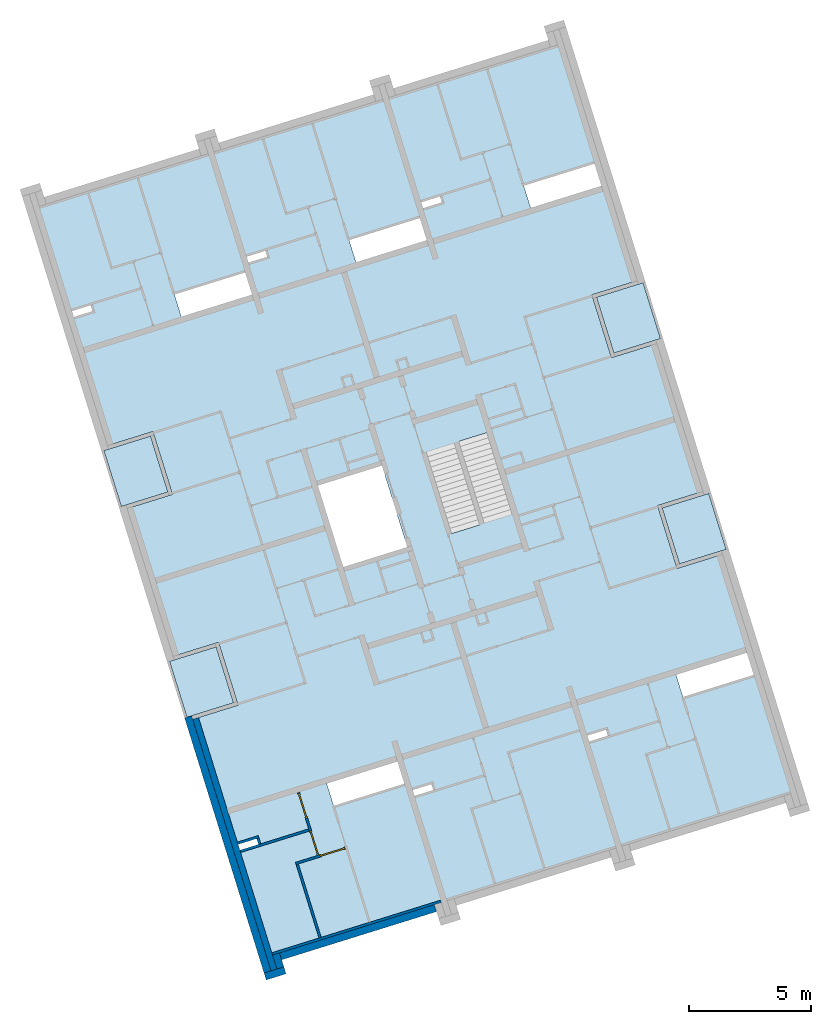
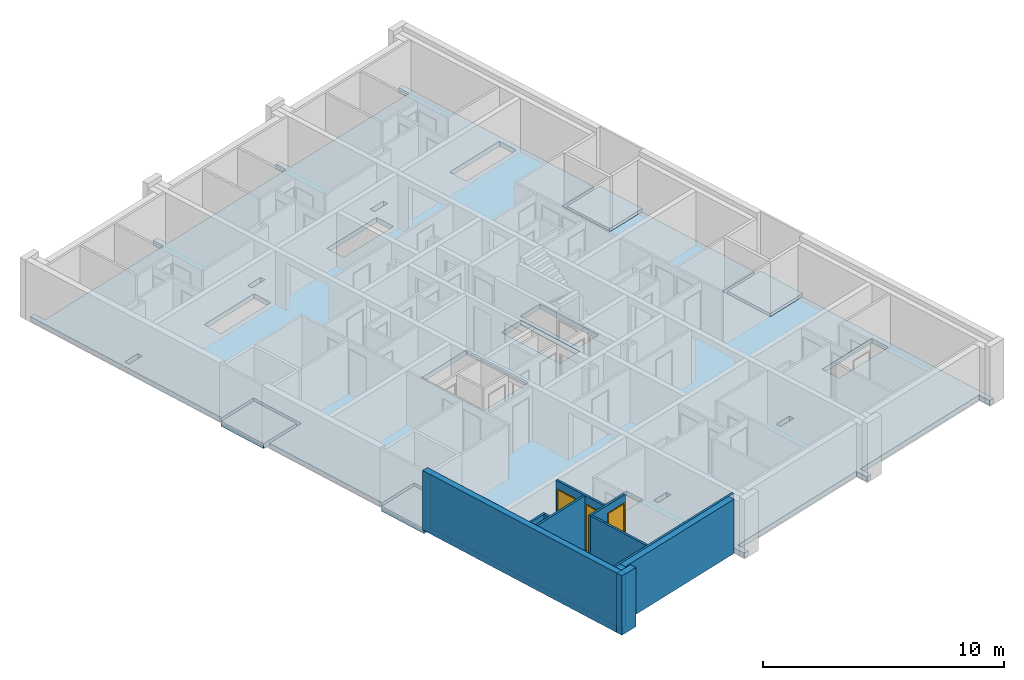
# One storey, part 1 of 12: 12 walls, 5 slabs, 3 doors, 18 openings.
"""IFC4 building model written with IfcOpenShell, lengths in metres."""

from ifc_helpers import new_model, entity, si_unit, converted_unit, direction, frame, origin, place, context, subcontext, project, spatial, indexed_curve, outline, extrude, polygons, source, transform, mapped, material, constituent, constituent_set, type_object, type_shapes, element, fill, save


model = new_model("IFC4")

# Units and contexts
model_context = context("Model", 3, precision=1e-05, world=origin(), true_north=direction((6.12323399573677e-17, 1.0)))
body_context = subcontext(model_context, "Body", "Model", "MODEL_VIEW")
ifc_project = project(units=[si_unit("LENGTHUNIT", "METRE"), si_unit("AREAUNIT", "SQUARE_METRE"), si_unit("VOLUMEUNIT", "CUBIC_METRE"), converted_unit("PLANEANGLEUNIT", "DEGREE", entity("IfcPlaneAngleMeasure", 0.0174532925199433), si_unit("PLANEANGLEUNIT", "RADIAN"), dimensions=[0, 0, 0, 0, 0, 0, 0])], contexts=[model_context])

# Site, building, storey
site_placement = place(None, frame((13.1347999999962, 11.9886000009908, 0.0), z_axis=(0.0, 0.0, 1.0), x_axis=(0.954770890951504, 0.297342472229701, 0.0)))
site = spatial("IfcSite", under=ifc_project, at=site_placement, Name="Schiehaven", CompositionType="ELEMENT")
building_placement = place(site_placement, origin())
building = spatial("IfcBuilding", under=site, at=building_placement, Name="VORM huis", CompositionType="ELEMENT")
storey_placement = place(building_placement, frame((0.0, 0.0, 3.9)))
storey = spatial("IfcBuildingStorey", under=building, at=storey_placement, Name="01 eerste verdieping", CompositionType="ELEMENT", Elevation=3.9)

# Slab, openings
ifc_material_1 = material(Name="beton_gewapend_ihw", Category="Miscellaneous")
slab_type_1 = type_object("IfcSlabType", Name="Floor:28_FL_skelet_vloer 250mm", PredefinedType="FLOOR", material=ifc_material_1)
slab_1_placement = place(storey_placement, origin())
slab_1 = element("IfcSlab", 1, at=slab_1_placement, inside=storey, type_object=slab_type_1, material=ifc_material_1, Name="Constructieve vloer", ObjectType="Vloer", PredefinedType="FLOOR", context=body_context, shape_type="SweptSolid", body=[
    extrude(outline(indexed_curve([(-11.3750000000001, -5.87499999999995), (-11.3750000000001, -16.675), (-11.125, -16.675), (-11.125, -16.075), (-3.87500000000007, -16.075), (-3.87500000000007, -16.675), (-3.62499999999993, -16.675), (-3.62499999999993, -16.075), (3.62500000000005, -16.075), (3.62500000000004, -16.675), (3.8750000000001, -16.675), (3.8750000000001, -16.075), (11.1250000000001, -16.075), (11.1250000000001, -16.6750000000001), (11.375, -16.6750000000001), (11.375, -5.87499999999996), (9.425, -5.87499999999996), (9.425, -3.17499999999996), (11.375, -3.17499999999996), (11.375, 3.17499999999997), (9.42499999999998, 3.17499999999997), (9.42499999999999, 5.87499999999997), (11.375, 5.87499999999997), (11.375, 16.675), (11.1250000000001, 16.675), (11.1250000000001, 16.075), (3.8750000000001, 16.075), (3.8750000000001, 16.675), (3.62500000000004, 16.675), (3.62500000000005, 16.075), (-3.62499999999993, 16.075), (-3.62499999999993, 16.675), (-3.87500000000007, 16.675), (-3.87500000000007, 16.075), (-11.125, 16.075), (-11.125, 16.6749999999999), (-11.3750000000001, 16.6749999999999), (-11.3750000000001, 5.87499999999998), (-9.42500000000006, 5.87499999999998), (-9.42500000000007, 3.17499999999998), (-11.3750000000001, 3.17499999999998), (-11.3750000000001, -3.17499999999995), (-9.42500000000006, -3.17499999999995), (-9.42500000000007, -5.87499999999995), (-11.3750000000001, -5.87499999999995)], self_intersect=False), holes=[indexed_curve([(-3.62500000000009, -1.74999999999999), (-3.62500000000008, 1.75000000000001), (-0.875000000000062, 1.75), (-0.875000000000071, -1.75), (-3.62500000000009, -1.74999999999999)], self_intersect=False), indexed_curve([(2.22499999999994, 1.76), (2.22499999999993, -1.54), (1.02499999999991, -1.53999999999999), (1.02499999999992, 1.76), (2.22499999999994, 1.76)], self_intersect=False), indexed_curve([(3.62499999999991, -1.75999999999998), (2.42499999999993, -1.75999999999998), (2.42499999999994, 1.54), (3.62499999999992, 1.54), (3.62499999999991, -1.75999999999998)], self_intersect=False), indexed_curve([(-2.82500000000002, 11.3249999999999), (-3.625, 11.3249999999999), (-3.62500000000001, 11.5749999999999), (-2.82500000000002, 11.575), (-2.82500000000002, 11.3249999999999)], self_intersect=False), indexed_curve([(-10.325, 11.325), (-11.125, 11.325), (-11.125, 11.575), (-10.325, 11.575), (-10.325, 11.325)], self_intersect=False), indexed_curve([(4.67499999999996, 11.3249999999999), (3.87499999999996, 11.3249999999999), (3.87499999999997, 11.5749999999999), (4.67499999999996, 11.5749999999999), (4.67499999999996, 11.3249999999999)], self_intersect=False), indexed_curve([(-3.87499999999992, 10.9749999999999), (-3.87499999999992, 10.0249999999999), (-6.91299986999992, 10.0249999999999), (-6.91299986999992, 10.9749999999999), (-3.87499999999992, 10.9749999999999)], self_intersect=False), indexed_curve([(11.1250000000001, 10.9749999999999), (11.1250000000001, 10.0249999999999), (8.08700013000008, 10.0249999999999), (8.08700013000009, 10.9749999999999), (11.1250000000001, 10.9749999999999)], self_intersect=False), indexed_curve([(-2.82499999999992, -11.3249999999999), (-2.82499999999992, -11.5749999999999), (-3.62499999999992, -11.5749999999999), (-3.62499999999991, -11.3249999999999), (-2.82499999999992, -11.3249999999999)], self_intersect=False), indexed_curve([(3.62500000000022, -10.975), (0.587000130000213, -10.9749999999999), (0.587000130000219, -10.0249999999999), (3.62500000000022, -10.025), (3.62500000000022, -10.975)], self_intersect=False), indexed_curve([(-10.325, -11.3249999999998), (-10.325, -11.5749999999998), (-11.1249999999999, -11.5749999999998), (-11.1249999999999, -11.3249999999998), (-10.325, -11.3249999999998)], self_intersect=False), indexed_curve([(4.67500000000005, -11.325), (4.67500000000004, -11.575), (3.87500000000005, -11.575), (3.87500000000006, -11.325), (4.67500000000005, -11.325)], self_intersect=False), indexed_curve([(-3.87499999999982, -10.9749999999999), (-6.91299986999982, -10.9749999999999), (-6.91299986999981, -10.0249999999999), (-3.87499999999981, -10.0249999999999), (-3.87499999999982, -10.9749999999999)], self_intersect=False), indexed_curve([(11.1250000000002, -10.975), (8.08700013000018, -10.975), (8.08700013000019, -10.025), (11.1250000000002, -10.0250000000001), (11.1250000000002, -10.975)], self_intersect=False)]), frame((16.2500000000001, 17.05, -0.249999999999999), z_axis=(0.0, 0.0, -1.0), x_axis=(1.0, 0.0, 0.0)), (0.0, 0.0, -1.0), 0.25),
])
opening_1_placement = place(slab_1_placement, origin())
element("IfcOpeningElement", 2, at=opening_1_placement, cuts=slab_1, Name="Constructieve vloer", PredefinedType="OPENING", context=body_context, shape_type="SweptSolid", body=[
    extrude(outline(indexed_curve([(-1.74999999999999, -1.37500000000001), (1.75, -1.37500000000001), (1.75, 1.37500000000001), (-1.75, 1.37500000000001), (-1.74999999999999, -1.37500000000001)], self_intersect=False)), frame((14.0, 17.05, -0.25), z_axis=(0.0, 0.0, 1.0), x_axis=(0.0, -1.0, 0.0)), (0.0, 0.0, 1.0), 0.25),
])
opening_2_placement = place(slab_1_placement, origin())
element("IfcOpeningElement", 3, at=opening_2_placement, cuts=slab_1, Name="Constructieve vloer", PredefinedType="OPENING", context=body_context, shape_type="SweptSolid", body=[
    extrude(outline(indexed_curve([(-1.65, -0.600000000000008), (1.65, -0.600000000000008), (1.65, 0.600000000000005), (-1.65, 0.600000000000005), (-1.65, -0.600000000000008)], self_intersect=False)), frame((17.8750000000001, 16.94, -0.25), z_axis=(0.0, 0.0, 1.0), x_axis=(0.0, 1.0, 0.0)), (0.0, 0.0, 1.0), 0.25),
])
opening_3_placement = place(slab_1_placement, origin())
element("IfcOpeningElement", 4, at=opening_3_placement, cuts=slab_1, Name="Constructieve vloer", PredefinedType="OPENING", context=body_context, shape_type="SweptSolid", body=[
    extrude(outline(indexed_curve([(-0.399999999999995, -0.125000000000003), (0.399999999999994, -0.125000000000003), (0.399999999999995, 0.125000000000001), (-0.399999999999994, 0.125000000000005), (-0.399999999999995, -0.125000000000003)], self_intersect=False)), frame((13.0250000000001, 5.60000000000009, -0.25), z_axis=(0.0, 0.0, 1.0), x_axis=(-1.0, 0.0, 0.0)), (0.0, 0.0, 1.0), 0.25),
])
opening_4_placement = place(slab_1_placement, origin())
element("IfcOpeningElement", 5, at=opening_4_placement, cuts=slab_1, Name="Constructieve vloer", PredefinedType="OPENING", context=body_context, shape_type="SweptSolid", body=[
    extrude(outline(indexed_curve([(-0.399999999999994, -0.125000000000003), (0.399999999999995, -0.125000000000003), (0.399999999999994, 0.125000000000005), (-0.399999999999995, 0.125000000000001), (-0.399999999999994, -0.125000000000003)], self_intersect=False)), frame((5.52500000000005, 5.60000000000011, -0.25), z_axis=(0.0, 0.0, 1.0), x_axis=(-1.0, 0.0, 0.0)), (0.0, 0.0, 1.0), 0.25),
])
opening_5_placement = place(slab_1_placement, origin())
element("IfcOpeningElement", 6, at=opening_5_placement, cuts=slab_1, Name="Constructieve vloer", PredefinedType="OPENING", context=body_context, shape_type="SweptSolid", body=[
    extrude(outline(indexed_curve([(-0.399999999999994, -0.125000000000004), (0.399999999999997, -0.125000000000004), (0.399999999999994, 0.125000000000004), (-0.399999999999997, 0.125000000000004), (-0.399999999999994, -0.125000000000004)], self_intersect=False)), frame((20.5250000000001, 5.60000000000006, -0.25), z_axis=(0.0, 0.0, 1.0), x_axis=(-1.0, 0.0, 0.0)), (0.0, 0.0, 1.0), 0.25),
])
opening_6_placement = place(slab_1_placement, origin())
element("IfcOpeningElement", 7, at=opening_6_placement, cuts=slab_1, Name="Constructieve vloer", PredefinedType="OPENING", context=body_context, shape_type="SweptSolid", body=[
    extrude(outline(indexed_curve([(-0.475, -1.518999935), (0.475, -1.518999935), (0.475, 1.518999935), (-0.475, 1.518999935), (-0.475, -1.518999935)], self_intersect=False)), frame((10.8560000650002, 6.5500000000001, -0.25), z_axis=(0.0, 0.0, 1.0), x_axis=(0.0, 1.0, 0.0)), (0.0, 0.0, 1.0), 0.25),
])
opening_7_placement = place(slab_1_placement, origin())
element("IfcOpeningElement", 8, at=opening_7_placement, cuts=slab_1, Name="Constructieve vloer", PredefinedType="OPENING", context=body_context, shape_type="SweptSolid", body=[
    extrude(outline(indexed_curve([(-0.474999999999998, -1.518999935), (0.474999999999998, -1.518999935), (0.474999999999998, 1.518999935), (-0.474999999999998, 1.518999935), (-0.474999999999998, -1.518999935)], self_intersect=False)), frame((25.8560000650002, 6.55000000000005, -0.25), z_axis=(0.0, 0.0, 1.0), x_axis=(0.0, 1.0, 0.0)), (0.0, 0.0, 1.0), 0.25),
])
opening_8_placement = place(slab_1_placement, origin())
element("IfcOpeningElement", 9, at=opening_8_placement, cuts=slab_1, Name="Constructieve vloer", PredefinedType="OPENING", context=body_context, shape_type="SweptSolid", body=[
    extrude(outline(indexed_curve([(-0.125000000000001, -0.399999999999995), (0.125000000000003, -0.399999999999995), (0.125000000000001, 0.399999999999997), (-0.125000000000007, 0.399999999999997), (-0.125000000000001, -0.399999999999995)], self_intersect=False)), frame((13.0250000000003, 28.4999999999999, -0.25), z_axis=(0.0, 0.0, 1.0), x_axis=(0.0, 1.0, 0.0)), (0.0, 0.0, 1.0), 0.25),
])
opening_9_placement = place(slab_1_placement, origin())
element("IfcOpeningElement", 10, at=opening_9_placement, cuts=slab_1, Name="Constructieve vloer", PredefinedType="OPENING", context=body_context, shape_type="SweptSolid", body=[
    extrude(outline(indexed_curve([(-1.518999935, -0.475), (1.518999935, -0.475), (1.518999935, 0.475), (-1.518999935, 0.475), (-1.518999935, -0.475)], self_intersect=False)), frame((18.3560000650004, 27.55, -0.25), z_axis=(0.0, 0.0, 1.0), x_axis=(-1.0, 0.0, 0.0)), (0.0, 0.0, 1.0), 0.25),
])
opening_10_placement = place(slab_1_placement, origin())
element("IfcOpeningElement", 11, at=opening_10_placement, cuts=slab_1, Name="Constructieve vloer", PredefinedType="OPENING", context=body_context, shape_type="SweptSolid", body=[
    extrude(outline(indexed_curve([(-0.125000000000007, -0.399999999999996), (0.125000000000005, -0.399999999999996), (0.125000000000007, 0.399999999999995), (-0.125000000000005, 0.399999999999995), (-0.125000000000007, -0.399999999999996)], self_intersect=False)), frame((5.52500000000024, 28.4999999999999, -0.25), z_axis=(0.0, 0.0, 1.0), x_axis=(0.0, 1.0, 0.0)), (0.0, 0.0, 1.0), 0.25),
])
opening_11_placement = place(slab_1_placement, origin())
element("IfcOpeningElement", 12, at=opening_11_placement, cuts=slab_1, Name="Constructieve vloer", PredefinedType="OPENING", context=body_context, shape_type="SweptSolid", body=[
    extrude(outline(indexed_curve([(-0.125000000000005, -0.399999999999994), (0.124999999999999, -0.399999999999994), (0.125000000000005, 0.399999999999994), (-0.125000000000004, 0.399999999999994), (-0.125000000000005, -0.399999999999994)], self_intersect=False)), frame((20.5250000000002, 28.5, -0.25), z_axis=(0.0, 0.0, 1.0), x_axis=(0.0, 1.0, 0.0)), (0.0, 0.0, 1.0), 0.25),
])
opening_12_placement = place(slab_1_placement, origin())
element("IfcOpeningElement", 13, at=opening_12_placement, cuts=slab_1, Name="Constructieve vloer", PredefinedType="OPENING", context=body_context, shape_type="SweptSolid", body=[
    extrude(outline(indexed_curve([(-1.518999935, -0.474999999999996), (1.518999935, -0.474999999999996), (1.518999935, 0.475), (-1.518999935, 0.474999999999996), (-1.518999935, -0.474999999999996)], self_intersect=False)), frame((10.8560000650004, 27.5499999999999, -0.25), z_axis=(0.0, 0.0, 1.0), x_axis=(-1.0, 0.0, 0.0)), (0.0, 0.0, 1.0), 0.25),
])
opening_13_placement = place(slab_1_placement, origin())
element("IfcOpeningElement", 14, at=opening_13_placement, cuts=slab_1, Name="Constructieve vloer", PredefinedType="OPENING", context=body_context, shape_type="SweptSolid", body=[
    extrude(outline(indexed_curve([(-1.51899993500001, -0.474999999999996), (1.518999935, -0.475), (1.518999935, 0.475), (-1.518999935, 0.475), (-1.51899993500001, -0.474999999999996)], self_intersect=False)), frame((25.8560000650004, 27.55, -0.25), z_axis=(0.0, 0.0, 1.0), x_axis=(-1.0, 0.0, 0.0)), (0.0, 0.0, 1.0), 0.25),
])

# Slabs
slab_type_2 = type_object("IfcSlabType", Name="Floor:28_FL_skelet_dakterrasvloer 250mm", PredefinedType="ROOF", material=ifc_material_1)
slab_2_placement = place(storey_placement, origin())
element("IfcSlab", 15, at=slab_2_placement, inside=storey, type_object=slab_type_2, material=ifc_material_1, Name="Begaanbare dakvloer", ObjectType="Vloer", PredefinedType="ROOF", context=body_context, shape_type="SweptSolid", body=[
    extrude(outline(indexed_curve([(-1.2, -1.0), (1.2, -1.0), (1.2, 1.0), (-1.2, 1.0), (-1.2, -1.0)], self_intersect=False)), frame((5.67500000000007, 12.5250000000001, 0.0), z_axis=(0.0, 0.0, -1.0), x_axis=(0.0, 1.0, 0.0)), (0.0, 0.0, 1.0), 0.25),
])
slab_3_placement = place(storey_placement, origin())
element("IfcSlab", 16, at=slab_3_placement, inside=storey, type_object=slab_type_2, material=ifc_material_1, Name="Begaanbare dakvloer", ObjectType="Vloer", PredefinedType="ROOF", context=body_context, shape_type="SweptSolid", body=[
    extrude(outline(indexed_curve([(-1.2, -1.0), (1.2, -1.0), (1.2, 1.0), (-1.2, 1.0), (-1.2, -1.0)], self_intersect=False)), frame((5.67500000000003, 21.5749999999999, 0.0), z_axis=(0.0, 0.0, -1.0), x_axis=(0.0, 1.0, 0.0)), (0.0, 0.0, 1.0), 0.25),
])
slab_4_placement = place(storey_placement, origin())
element("IfcSlab", 17, at=slab_4_placement, inside=storey, type_object=slab_type_2, material=ifc_material_1, Name="Begaanbare dakvloer", ObjectType="Vloer", PredefinedType="ROOF", context=body_context, shape_type="SweptSolid", body=[
    extrude(outline(indexed_curve([(-1.2, -1.0), (1.19999999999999, -1.0), (1.2, 1.0), (-1.2, 1.0), (-1.2, -1.0)], self_intersect=False)), frame((26.8250000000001, 21.5749999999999, 0.0), z_axis=(0.0, 0.0, -1.0), x_axis=(0.0, 1.0, 0.0)), (0.0, 0.0, 1.0), 0.25),
])
slab_5_placement = place(storey_placement, origin())
element("IfcSlab", 18, at=slab_5_placement, inside=storey, type_object=slab_type_2, material=ifc_material_1, Name="Begaanbare dakvloer", ObjectType="Vloer", PredefinedType="ROOF", context=body_context, shape_type="SweptSolid", body=[
    extrude(outline(indexed_curve([(-1.2, -1.0), (1.2, -1.0), (1.2, 1.0), (-1.2, 1.00000000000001), (-1.2, -1.0)], self_intersect=False)), frame((26.8250000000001, 12.525, 0.0), z_axis=(0.0, 0.0, -1.0), x_axis=(0.0, 1.0, 0.0)), (0.0, 0.0, 1.0), 0.25),
])

# Walls
wall_type_1 = type_object("IfcWallType", Name="Basic Wall:28_WA_skelet_wand 250mm_gen", PredefinedType="STANDARD")
wall_1_placement = place(storey_placement, frame((5.0, 0.374999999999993, 0.0), z_axis=(0.0, 0.0, 1.0), x_axis=(0.0, 1.0, 0.0)))
element("IfcWall", 19, at=wall_1_placement, inside=storey, type_object=wall_type_1, material=ifc_material_1, Name="Constructieve wand", ObjectType="Wand", PredefinedType="NOTDEFINED", context=body_context, shape_type="SweptSolid", body=[
    extrude(outline(indexed_curve([(10.8000000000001, 0.124999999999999), (4.18608357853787e-16, 0.124999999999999), (-4.18608357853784e-16, -0.125), (10.8000000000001, -0.125), (10.8000000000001, 0.124999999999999)], self_intersect=False)), origin(), (0.0, 0.0, 1.0), 2.75),
])
ifc_material_2 = material(Name="ntb_ntb_ntb", Category="Miscellaneous")
wall_type_2 = type_object("IfcWallType", Name="Basic Wall:21_WA_gevel_binnenspouwwand 100mm_gen", PredefinedType="STANDARD")
wall_2_placement = place(storey_placement, frame((5.12500000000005, 1.02500000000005, 0.0)))
element("IfcWall", 20, at=wall_2_placement, inside=storey, type_object=wall_type_2, material=ifc_material_2, Name="Binnenspouwblad", ObjectType="Wand", PredefinedType="NOTDEFINED", context=body_context, shape_type="SweptSolid", body=[
    extrude(outline(indexed_curve([(7.24999999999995, 0.05), (-1.84844170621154e-16, 0.05), (1.84844170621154e-16, -0.05), (7.24999999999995, -0.05), (7.24999999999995, 0.05)], self_intersect=False)), origin(), (0.0, 0.0, 1.0), 2.75),
])
wall_type_3 = type_object("IfcWallType", Name="Basic Wall: 300mm_gen", PredefinedType="STANDARD")
wall_3_placement = place(storey_placement, frame((4.72500000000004, 0.37500000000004, 0.0), z_axis=(0.0, 0.0, 1.0), x_axis=(0.0, 1.0, 0.0)))
element("IfcWall", 21, at=wall_3_placement, inside=storey, type_object=wall_type_3, material=ifc_material_2, Name="Gevelwand", ObjectType="Wand", PredefinedType="NOTDEFINED", context=body_context, shape_type="SweptSolid", body=[
    extrude(outline(indexed_curve([(10.95, 0.15), (2.26816763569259e-16, 0.15), (-2.26816763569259e-16, -0.15), (10.95, -0.15), (10.95, 0.15)], self_intersect=False)), origin(), (0.0, 0.0, 1.0), 3.0),
])
wall_4_placement = place(storey_placement, frame((5.42500000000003, 0.22500000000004, 0.0), z_axis=(0.0, 0.0, 1.0), x_axis=(-1.0, 0.0, 0.0)))
element("IfcWall", 22, at=wall_4_placement, inside=storey, type_object=wall_type_3, material=ifc_material_2, Name="Gevelwand", ObjectType="Wand", PredefinedType="NOTDEFINED", context=body_context, shape_type="SweptSolid", body=[
    extrude(outline(indexed_curve([(0.84999999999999, 0.15), (-3.08086889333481e-16, 0.15), (3.08086889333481e-16, -0.15), (0.84999999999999, -0.15), (0.84999999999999, 0.15)], self_intersect=False)), origin(), (0.0, 0.0, 1.0), 3.0),
])
wall_5_placement = place(storey_placement, frame((5.27500000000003, 0.975000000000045, 0.0), z_axis=(0.0, 0.0, 1.0), x_axis=(0.0, -1.0, 0.0)))
element("IfcWall", 23, at=wall_5_placement, inside=storey, type_object=wall_type_3, material=ifc_material_2, Name="Gevelwand", ObjectType="Wand", PredefinedType="NOTDEFINED", context=body_context, shape_type="SweptSolid", body=[
    extrude(outline(indexed_curve([(0.600000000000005, 0.149999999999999), (0.0, 0.149999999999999), (0.0, -0.149999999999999), (0.600000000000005, -0.149999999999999), (0.600000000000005, 0.149999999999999)], self_intersect=False)), origin(), (0.0, 0.0, 1.0), 2.75),
])
wall_6_placement = place(storey_placement, frame((12.075, 0.825000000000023, 0.0), z_axis=(0.0, 0.0, 1.0), x_axis=(-1.0, 0.0, 0.0)))
element("IfcWall", 24, at=wall_6_placement, inside=storey, type_object=wall_type_3, material=ifc_material_2, Name="Gevelwand", ObjectType="Wand", PredefinedType="NOTDEFINED", context=body_context, shape_type="SweptSolid", body=[
    extrude(outline(indexed_curve([(6.64999999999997, 0.15), (-4.76111769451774e-16, 0.15), (4.76111769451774e-16, -0.15), (6.64999999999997, -0.15), (6.64999999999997, 0.15)], self_intersect=False)), origin(), (0.0, 0.0, 1.0), 2.75),
])

# Wall, openings, door
wall_type_4 = type_object("IfcWallType", Name="Basic Wall:22_WA_afbouw_binnenwand 100mm_gen", PredefinedType="STANDARD")
wall_7_placement = place(storey_placement, frame((9.27499999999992, 4.2750000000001, 0.0), z_axis=(0.0, 0.0, 1.0), x_axis=(-1.0, 0.0, 0.0)))
wall_7 = element("IfcWall", 25, at=wall_7_placement, inside=storey, type_object=wall_type_4, material=ifc_material_2, Name="Binnenwand", ObjectType="Wand", PredefinedType="NOTDEFINED", context=body_context, shape_type="Tessellation", body=[
    polygons([(2.12499999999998, -0.05, 2.75), (1.19999999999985, -0.05, 2.75), (1.09999999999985, -0.05, 2.75), (0.0, -0.05, 2.75), (0.0, -0.05, 2.34999999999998), (0.0, -0.05, 0.0), (0.0250000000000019, -0.05, 0.0), (0.025000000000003, -0.05, 2.34999999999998), (1.075, -0.05, 2.34999999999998), (1.075, -0.05, 0.0), (2.12499999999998, -0.05, 0.0), (0.0, 0.05, 2.75), (2.02499999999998, 0.05, 2.75), (2.12499999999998, 0.05, 2.75), (2.12499999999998, 0.05, 0.0), (2.02499999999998, 0.05, 5.41433564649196e-16), (1.075, 0.05, 0.0), (1.075, 0.05, 2.34999999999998), (0.0250000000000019, 0.05, 2.34999999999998), (0.0250000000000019, 0.05, 0.0), (0.0, 0.05, 0.0)], [[[1, 2, 3, 4, 5, 6, 7, 8, 9, 10, 11]], [[12, 13, 14, 15, 16, 17, 18, 19, 20, 21]], [[6, 21, 20, 7]], [[4, 3, 2, 1, 14, 13, 12]], [[6, 5, 4, 12, 21]], [[19, 8, 7, 20]], [[9, 18, 17, 10]], [[8, 19, 18, 9]], [[1, 11, 15, 14]], [[15, 11, 10, 17, 16]]], closed=True),
])
opening_14_placement = place(wall_7_placement, origin())
element("IfcOpeningElement", 26, at=opening_14_placement, cuts=wall_7, Name="Binnendeur", PredefinedType="OPENING", context=body_context, shape_type="SweptSolid", body=[
    extrude(outline(indexed_curve([(-0.0499999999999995, -1.17499999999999), (0.0500000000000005, -1.17499999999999), (0.0500000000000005, 1.17499999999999), (-0.0499999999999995, 1.17499999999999), (-0.0499999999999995, -1.17499999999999)], self_intersect=False)), frame((1.14999999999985, -1.10000000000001, 1.17499999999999), z_axis=(0.0, 1.0, 0.0), x_axis=(1.0, 0.0, 0.0)), (0.0, 0.0, 1.0), 1.05),
])
opening_15_placement = place(wall_7_placement, frame((1.075, 0.05, 0.0)))
opening_15 = element("IfcOpeningElement", 27, at=opening_15_placement, cuts=wall_7, Name="Binnendeur", PredefinedType="OPENING", context=body_context, shape_type="SweptSolid", body=[
    extrude(outline(indexed_curve([(2.34999999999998, 1.05), (0.0, 1.05), (0.0, 2.70716782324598e-16), (2.34999999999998, 2.70716782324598e-16), (2.34999999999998, 1.05)], self_intersect=False)), frame((0.0, 0.0, 0.0), z_axis=(0.0, -1.0, 0.0), x_axis=(0.0, 0.0, 1.0)), (0.0, 0.0, 1.0), 0.1),
])
ifc_material_3 = material(Name="PD_a_binnenwandopeningen", Category="Miscellaneous")
ifc_constituent_1 = constituent(ifc_material_3, Name="PD_a_binnenwandopeningen", Category="Miscellaneous")
ifc_material_4 = material(Name="metaal_aluminium_ntb", Category="Miscellaneous")
ifc_constituent_2 = constituent(ifc_material_4, Name="metaal_aluminium_ntb", Category="Miscellaneous")
ifc_constituent_set_1 = constituent_set(constituents=[ifc_constituent_1, ifc_constituent_2])
door_type = type_object("IfcDoorType", Name="32_DO_binnendeur enkel:binnendeur", OperationType="REVOLVING", PredefinedType="DOOR")
shared_shape = source(origin(), body_context, "Body", "SweptSolid", [
    extrude(outline(indexed_curve([(-1.16249999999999, -0.525000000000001), (1.18749999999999, -0.525), (1.18749999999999, 0.525), (-1.16249999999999, 0.525), (-1.16249999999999, 0.475), (1.13749999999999, 0.475), (1.13749999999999, -0.475), (-1.16249999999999, -0.475), (-1.16249999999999, -0.525000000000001)], self_intersect=False)), frame((0.525000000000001, 0.0, 1.16249999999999), z_axis=(0.0, 1.0, 0.0), x_axis=(0.0, 0.0, 1.0)), (0.0, 0.0, 1.0), 0.1),
    extrude(outline(indexed_curve([(-0.025, -0.475), (0.025, -0.475), (0.025, 0.475), (-0.025, 0.475), (-0.025, -0.475)], self_intersect=False)), frame((0.525000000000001, 0.0499999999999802, 0.0), z_axis=(0.0, 0.0, 1.0), x_axis=(0.0, 1.0, 0.0)), (0.0, 0.0, 1.0), 2.29999999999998),
])
type_shapes(door_type, [shared_shape])
door_1_placement = place(opening_15_placement, frame((0.0, 0.0, 0.0), z_axis=(0.0, 0.0, 1.0), x_axis=(-1.0, 0.0, 0.0)))
door_1 = element("IfcDoor", 28, at=door_1_placement, inside=storey, type_object=door_type, material=ifc_constituent_set_1, Name="Binnendeur", ObjectType="Deur", OperationType="REVOLVING", OverallHeight=2.34999999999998, OverallWidth=1.05, PredefinedType="DOOR", context=body_context, shape_type="MappedRepresentation", body=[
    mapped(shared_shape, transform((0.0, 0.0, 0.0), scale=1.0)),
])
fill(opening_15, door_1)

# Wall
wall_8_placement = place(storey_placement, frame((7.19999999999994, 1.07500000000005, 0.0), z_axis=(0.0, 0.0, 1.0), x_axis=(0.0, 1.0, 0.0)))
element("IfcWall", 29, at=wall_8_placement, inside=storey, type_object=wall_type_4, material=ifc_material_2, Name="Binnenwand", ObjectType="Wand", PredefinedType="NOTDEFINED", context=body_context, shape_type="SweptSolid", body=[
    extrude(outline(indexed_curve([(3.15000000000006, 0.0500000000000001), (-6.18781216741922e-17, 0.0499999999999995), (6.18781216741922e-17, -0.0499999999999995), (3.15000000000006, -0.0499999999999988), (3.15000000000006, 0.0500000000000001)], self_intersect=False)), origin(), (0.0, 0.0, 1.0), 2.75),
])

# Wall, openings, doors
wall_9_placement = place(storey_placement, frame((8.12500000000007, 4.3250000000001, 0.0), z_axis=(0.0, 0.0, 1.0), x_axis=(0.0, 1.0, 0.0)))
wall_9 = element("IfcWall", 30, at=wall_9_placement, inside=storey, type_object=wall_type_4, material=ifc_material_2, Name="Binnenwand", ObjectType="Wand", PredefinedType="NOTDEFINED", context=body_context, shape_type="Tessellation", body=[
    polygons([(2.7, -0.0500000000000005, 2.75), (-5.41433564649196e-16, -0.050000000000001, 2.75), (-5.41433564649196e-16, -0.050000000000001, 2.34999999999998), (1.05000000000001, -0.0499999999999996, 2.34999999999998), (1.05000000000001, -0.0499999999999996, 0.0), (1.59999999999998, -0.050000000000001, 0.0), (1.59999999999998, -0.050000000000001, 2.34999999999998), (2.64999999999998, -0.0500000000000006, 2.34999999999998), (2.64999999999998, -0.0500000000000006, 0.0), (2.7, -0.0500000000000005, 0.0), (0.0, 0.049999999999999, 2.75), (1.05000000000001, 0.0499999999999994, 2.75), (1.15000000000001, 0.0499999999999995, 2.75), (2.7, 0.0499999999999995, 2.75), (2.7, 0.0499999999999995, 0.0), (2.64999999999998, 0.0499999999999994, 0.0), (2.64999999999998, 0.0499999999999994, 2.34999999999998), (1.59999999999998, 0.049999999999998, 2.34999999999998), (1.59999999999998, 0.049999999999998, 0.0), (1.15000000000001, 0.0499999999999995, 5.41433564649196e-16), (1.05000000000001, 0.0499999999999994, 0.0), (1.05000000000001, 0.0499999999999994, 2.34999999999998), (0.0, 0.049999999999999, 2.34999999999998)], [[[1, 2, 3, 4, 5, 6, 7, 8, 9, 10]], [[11, 12, 13, 14, 15, 16, 17, 18, 19, 20, 21, 22, 23]], [[9, 16, 15, 10]], [[2, 1, 14, 13, 12, 11]], [[18, 17, 8, 7]], [[17, 16, 9, 8]], [[19, 18, 7, 6]], [[2, 11, 23, 3]], [[4, 22, 21, 5]], [[22, 4, 3, 23]], [[1, 10, 15, 14]], [[19, 6, 5, 21, 20]]], closed=True),
])
opening_16_placement = place(wall_9_placement, frame((2.64999999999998, 0.0499999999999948, 0.0)))
opening_16 = element("IfcOpeningElement", 31, at=opening_16_placement, cuts=wall_9, Name="Binnendeur", PredefinedType="OPENING", context=body_context, shape_type="SweptSolid", body=[
    extrude(outline(indexed_curve([(2.34999999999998, 1.05), (0.0, 1.05), (0.0, 5.41433564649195e-16), (2.34999999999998, 5.41433564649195e-16), (2.34999999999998, 1.05)], self_intersect=False)), frame((0.0, 0.0, 0.0), z_axis=(0.0, -1.0, 0.0), x_axis=(0.0, 0.0, 1.0)), (0.0, 0.0, 1.0), 0.1),
])
opening_17_placement = place(wall_9_placement, frame((-4.3250000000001, 8.12500000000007, 0.0), z_axis=(0.0, 0.0, 1.0), x_axis=(0.0, -1.0, 0.0)))
element("IfcOpeningElement", 32, at=opening_17_placement, cuts=wall_9, Name="Binnendeur", PredefinedType="OPENING", context=body_context, shape_type="SweptSolid", body=[
    extrude(outline(indexed_curve([(-0.525, -1.17499999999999), (0.525000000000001, -1.17499999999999), (0.525000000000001, 1.17499999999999), (-0.525, 1.17499999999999), (-0.525, -1.17499999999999)], self_intersect=False)), frame((9.59900000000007, 6.45000000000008, 1.17499999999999), z_axis=(-1.0, 0.0, 0.0), x_axis=(0.0, 1.0, 0.0)), (0.0, 0.0, 1.0), 3.048),
])
opening_18_placement = place(wall_9_placement, frame((1.05000000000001, 0.0499999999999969, 0.0)))
opening_18 = element("IfcOpeningElement", 33, at=opening_18_placement, cuts=wall_9, Name="Binnendeur", PredefinedType="OPENING", context=body_context, shape_type="SweptSolid", body=[
    extrude(outline(indexed_curve([(2.34999999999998, 1.05), (0.0, 1.05), (0.0, 2.70716782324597e-16), (2.34999999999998, 2.70716782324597e-16), (2.34999999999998, 1.05)], self_intersect=False)), frame((0.0, 0.0, 0.0), z_axis=(0.0, -1.0, 0.0), x_axis=(0.0, 0.0, 1.0)), (0.0, 0.0, 1.0), 0.1),
])
ifc_constituent_3 = constituent(ifc_material_3, Name="PD_a_binnenwandopeningen", Category="Miscellaneous")
ifc_constituent_4 = constituent(ifc_material_4, Name="metaal_aluminium_ntb", Category="Miscellaneous")
ifc_constituent_set_2 = constituent_set(constituents=[ifc_constituent_3, ifc_constituent_4])
door_2_placement = place(opening_16_placement, frame((0.0, 0.0, 0.0), z_axis=(0.0, 0.0, 1.0), x_axis=(-1.0, 0.0, 0.0)))
door_2 = element("IfcDoor", 34, at=door_2_placement, inside=storey, type_object=door_type, material=ifc_constituent_set_2, Name="Binnendeur", ObjectType="Deur", OperationType="REVOLVING", OverallHeight=2.34999999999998, OverallWidth=1.05, PredefinedType="DOOR", context=body_context, shape_type="MappedRepresentation", body=[
    mapped(shared_shape, transform((0.0, 0.0, 0.0), scale=1.0)),
])
fill(opening_16, door_2)
ifc_constituent_5 = constituent(ifc_material_3, Name="PD_a_binnenwandopeningen", Category="Miscellaneous")
ifc_constituent_6 = constituent(ifc_material_4, Name="metaal_aluminium_ntb", Category="Miscellaneous")
ifc_constituent_set_3 = constituent_set(constituents=[ifc_constituent_5, ifc_constituent_6])
door_3_placement = place(opening_18_placement, frame((0.0, 0.0, 0.0), z_axis=(0.0, 0.0, 1.0), x_axis=(-1.0, 0.0, 0.0)))
door_3 = element("IfcDoor", 35, at=door_3_placement, inside=storey, type_object=door_type, material=ifc_constituent_set_3, Name="Binnendeur", ObjectType="Deur", OperationType="REVOLVING", OverallHeight=2.34999999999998, OverallWidth=1.05, PredefinedType="DOOR", context=body_context, shape_type="MappedRepresentation", body=[
    mapped(shared_shape, transform((0.0, 0.0, 0.0), scale=1.0)),
])
fill(opening_18, door_3)

# Walls
wall_10_placement = place(storey_placement, frame((8.07500000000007, 5.42500000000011, 0.0), z_axis=(0.0, 0.0, 1.0), x_axis=(-1.0, 0.0, 0.0)))
element("IfcWall", 36, at=wall_10_placement, inside=storey, type_object=wall_type_4, material=ifc_material_2, Name="Binnenwand", ObjectType="Wand", PredefinedType="NOTDEFINED", context=body_context, shape_type="SweptSolid", body=[
    extrude(outline(indexed_curve([(2.95000000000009, 0.0499999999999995), (0.0, 0.0499999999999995), (0.0, -0.0499999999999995), (2.95000000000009, -0.0499999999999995), (2.95000000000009, 0.0499999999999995)], self_intersect=False)), origin(), (0.0, 0.0, 1.0), 2.75),
])
wall_11_placement = place(storey_placement, frame((5.12499999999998, 5.77500000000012, 0.0)))
element("IfcWall", 37, at=wall_11_placement, inside=storey, type_object=wall_type_4, material=ifc_material_2, Name="Binnenwand", ObjectType="Wand", PredefinedType="NOTDEFINED", context=body_context, shape_type="SweptSolid", body=[
    extrude(outline(indexed_curve([(0.899999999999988, 0.0499999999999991), (-1.02695629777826e-16, 0.0499999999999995), (1.02695629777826e-16, -0.0499999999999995), (0.899999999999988, -0.0499999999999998), (0.899999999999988, 0.0499999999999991)], self_intersect=False)), origin(), (0.0, 0.0, 1.0), 2.75),
])
wall_12_placement = place(storey_placement, frame((5.97499999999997, 5.72500000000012, 0.0), z_axis=(0.0, 0.0, 1.0), x_axis=(0.0, -1.0, 0.0)))
element("IfcWall", 38, at=wall_12_placement, inside=storey, type_object=wall_type_4, material=ifc_material_2, Name="Binnenwand", ObjectType="Wand", PredefinedType="NOTDEFINED", context=body_context, shape_type="SweptSolid", body=[
    extrude(outline(indexed_curve([(0.250000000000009, 0.0499999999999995), (0.0, 0.0499999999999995), (0.0, -0.0499999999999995), (0.250000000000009, -0.0499999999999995), (0.250000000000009, 0.0499999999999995)], self_intersect=False)), origin(), (0.0, 0.0, 1.0), 2.75),
])

save(model, "model.ifc")
